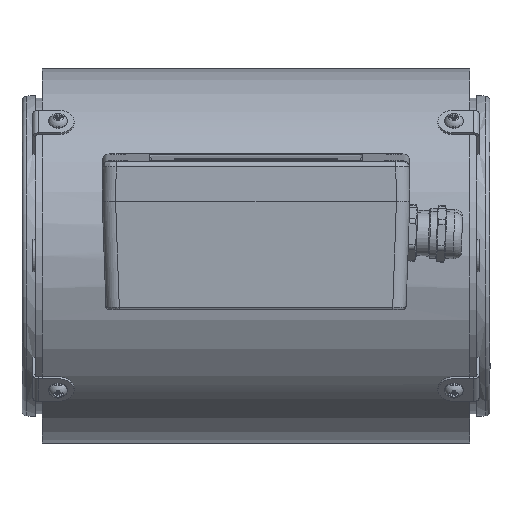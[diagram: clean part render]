
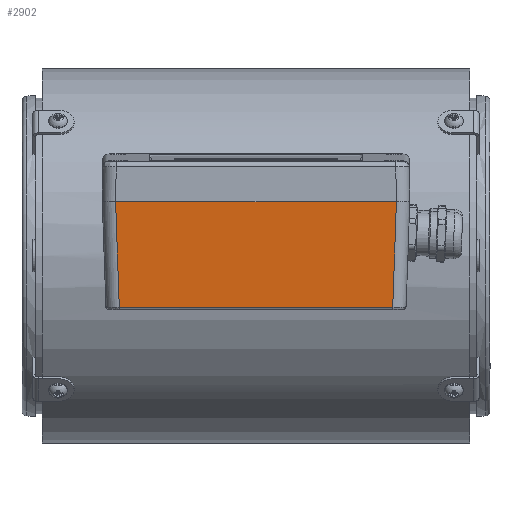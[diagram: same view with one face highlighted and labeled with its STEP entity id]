
A CAD part, top view. The second image highlights one B-rep face of the part: STEP entity #2902.
In plain terms, the highlighted planar face has unit normal (0, -0.07, 0.998).
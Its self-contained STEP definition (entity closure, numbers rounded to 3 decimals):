
#2902=ADVANCED_FACE('',(#11900),#11902,.T.);
#11900=FACE_BOUND('',#11901,.T.);
#11901=EDGE_LOOP('',(#25758,#25759,#25760,#25761,#25762,#25763));
#11902=PLANE('',#11903);
#11903=AXIS2_PLACEMENT_3D('',#11904,#11905,#11906);
#11904=CARTESIAN_POINT('',(-57.5,19.917,215.145));
#11905=DIRECTION('',(0.,-0.07,0.998));
#11906=DIRECTION('',(-1.,0.,0.));
#25758=ORIENTED_EDGE('',*,*,#30373,.F.);
#25759=ORIENTED_EDGE('',*,*,#30374,.T.);
#25760=ORIENTED_EDGE('',*,*,#30265,.F.);
#25761=ORIENTED_EDGE('',*,*,#30196,.F.);
#25762=ORIENTED_EDGE('',*,*,#30246,.F.);
#25763=ORIENTED_EDGE('',*,*,#30375,.T.);
#30196=EDGE_CURVE('',#33291,#33294,#33295,.T.);
#30246=EDGE_CURVE('',#33384,#33291,#33386,.T.);
#30265=EDGE_CURVE('',#33294,#33415,#33416,.T.);
#30373=EDGE_CURVE('',#33590,#33591,#33592,.F.);
#30374=EDGE_CURVE('',#33590,#33415,#33593,.T.);
#30375=EDGE_CURVE('',#33384,#33591,#33594,.T.);
#33291=VERTEX_POINT('',#40831);
#33294=VERTEX_POINT('',#40854);
#33295=LINE('',#40855,#40856);
#33384=VERTEX_POINT('',#41089);
#33386=LINE('',#41094,#41095);
#33415=VERTEX_POINT('',#41167);
#33416=LINE('',#41168,#41169);
#33590=VERTEX_POINT('',#41593);
#33591=VERTEX_POINT('',#41594);
#33592=LINE('',#41595,#41596);
#33593=LINE('',#41598,#41599);
#33594=LINE('',#41601,#41602);
#40831=CARTESIAN_POINT('',(51.122,-19.545,212.386));
#40854=CARTESIAN_POINT('',(-51.122,-19.545,212.386));
#40855=CARTESIAN_POINT('',(51.122,-19.545,212.386));
#40856=VECTOR('',#40857,1.);
#40857=DIRECTION('',(-1.,0.,0.));
#41089=CARTESIAN_POINT('',(52.503,19.917,215.145));
#41094=CARTESIAN_POINT('',(52.503,19.917,215.145));
#41095=VECTOR('',#41096,1.);
#41096=DIRECTION('',(-0.035,-0.997,-0.07));
#41167=CARTESIAN_POINT('',(-52.503,19.917,215.145));
#41168=CARTESIAN_POINT('',(-51.122,-19.545,212.386));
#41169=VECTOR('',#41170,1.);
#41170=DIRECTION('',(-0.035,0.997,0.07));
#41593=CARTESIAN_POINT('',(-52.501,19.917,215.145));
#41594=CARTESIAN_POINT('',(52.501,19.917,215.145));
#41595=CARTESIAN_POINT('',(52.501,19.917,215.145));
#41596=VECTOR('',#41597,1.);
#41597=DIRECTION('',(-1.,0.,0.));
#41598=CARTESIAN_POINT('',(-52.501,19.917,215.145));
#41599=VECTOR('',#41600,1.);
#41600=DIRECTION('',(-1.,0.,0.));
#41601=CARTESIAN_POINT('',(52.503,19.917,215.145));
#41602=VECTOR('',#41603,1.);
#41603=DIRECTION('',(-1.,0.,0.));
